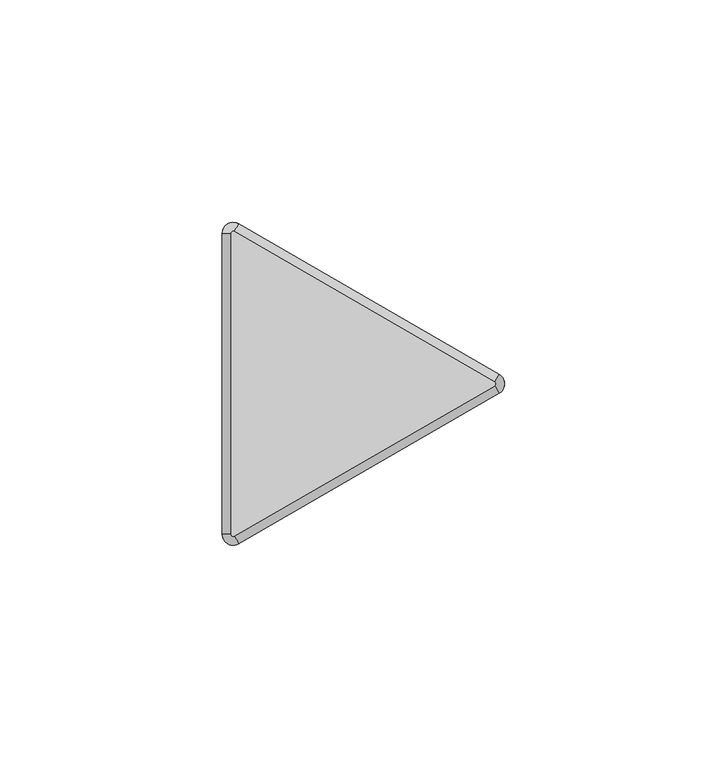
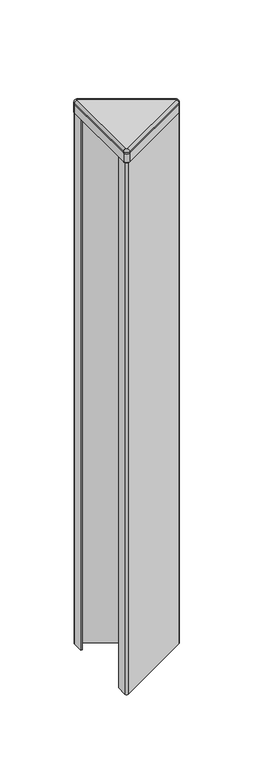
"""IFC4 building model written with IfcOpenShell, lengths in millimetres: furniture geometry, Steelcase - Answer Solution - Panel - 120deg Change-of-Height Trim - Thin : Y Corner - 18H for 72H App."""

import ifcopenshell
import ifcopenshell.guid

model = None  # the IFC model being written
_history = None  # IfcOwnerHistory: only IFC2X3 demands one
_inside = {}  # id of a spatial element -> (the spatial element, [elements in it])
_under = {}  # id of a project, library or spatial element -> (it, [spatial elements below it])
_declared = {}  # id of a project -> (the project, [libraries it declares])
_typed = {}  # id of a type object -> (the type object, [elements of that type])
_made_of = {}  # id of a material, layer set ... -> (it, [elements and type objects made of it])


def new_model(schema):
    """Start an empty IFC model of exactly this schema.

    Asked for "IFC4X3", IfcOpenShell would pick the latest addendum, in which some entities
    have other attributes; the version numbers below select the first issue.
    IFC2X3 requires an IfcOwnerHistory on every rooted entity: one is made here for all.
    """
    global model, _history
    if schema == "IFC4X3":
        model = ifcopenshell.file(schema_version=(4, 3, 0, 0))
    else:
        model = ifcopenshell.file(schema=schema)
    _inside.clear()
    _under.clear()
    _declared.clear()
    _typed.clear()
    _made_of.clear()
    _history = None
    if model.schema == "IFC2X3":
        org = make("IfcOrganization", Name="unknown")
        user = make(
            "IfcPersonAndOrganization",
            ThePerson=make("IfcPerson", FamilyName="unknown"),
            TheOrganization=org,
        )
        app = make(
            "IfcApplication",
            ApplicationDeveloper=org,
            Version="unknown",
            ApplicationFullName="unknown",
            ApplicationIdentifier="unknown",
        )
        _history = make(
            "IfcOwnerHistory",
            OwningUser=user,
            OwningApplication=app,
            ChangeAction="ADDED",
            CreationDate=0,
        )
    return model


def make(cls, **values):
    """One entity of the class cls with the attributes given. An attribute that is None is left unset."""
    return model.create_entity(
        cls, **{name: value for name, value in values.items() if value is not None}
    )


def rooted(cls, **values):
    """An entity with a GlobalId (a new one), such as an element, a storey or a relation."""
    return make(cls, GlobalId=ifcopenshell.guid.new(), OwnerHistory=_history, **values)


def si_unit(unit_type, name, prefix=None):
    """IfcSIUnit, for example si_unit("LENGTHUNIT", "METRE", prefix="MILLI")."""
    return make("IfcSIUnit", UnitType=unit_type, Prefix=prefix, Name=name)


def assignment(units):
    """IfcUnitAssignment: the units of a project."""
    return None if units is None else make("IfcUnitAssignment", Units=units)


def point(xyz):
    """IfcCartesianPoint."""
    return None if xyz is None else make("IfcCartesianPoint", Coordinates=xyz)


def direction(xyz):
    """IfcDirection."""
    return None if xyz is None else make("IfcDirection", DirectionRatios=xyz)


def frame(location, z_axis=None, x_axis=None):
    """IfcAxis2Placement3D, a coordinate frame: its origin and axes. An axis left out is left unset."""
    return make(
        "IfcAxis2Placement3D",
        Location=point(location),
        Axis=direction(z_axis),
        RefDirection=direction(x_axis),
    )


def frame_2d(location, x_axis=None):
    """IfcAxis2Placement2D, a coordinate frame in the plane: its origin and x axis."""
    return make(
        "IfcAxis2Placement2D", Location=point(location), RefDirection=direction(x_axis)
    )


def origin():
    """The frame at (0, 0, 0) with its axes left unset."""
    return frame((0.0, 0.0, 0.0))


def place(relative_to, where):
    """IfcLocalPlacement: puts the frame where relative to a parent placement (None: the world)."""
    return make(
        "IfcLocalPlacement", PlacementRelTo=relative_to, RelativePlacement=where
    )


def context(
    kind, dimensions, precision=None, world=None, true_north=None, identifier=None
):
    """IfcGeometricRepresentationContext, for example the 3D "Model" context."""
    return make(
        "IfcGeometricRepresentationContext",
        ContextIdentifier=identifier,
        ContextType=kind,
        CoordinateSpaceDimension=dimensions,
        Precision=precision,
        WorldCoordinateSystem=world,
        TrueNorth=true_north,
    )


def project(units=None, contexts=None):
    """IfcProject with its units and contexts."""
    return rooted(
        "IfcProject",
        Name="project",
        RepresentationContexts=contexts,
        UnitsInContext=assignment(units),
    )


def spatial(cls, under=None, at=None, **own):
    """A site, building, storey or space (cls), placed at a placement, below another one or the project."""
    s = rooted(cls, ObjectPlacement=at, **own)
    if under is not None:
        _under.setdefault(under.id(), (under, []))[1].append(s)
    return s


def polyline(points):
    """IfcPolyline through the points."""
    return make("IfcPolyline", Points=[point(p) for p in points])


def circle_curve(where, radius):
    """IfcCircle in the frame where."""
    return make("IfcCircle", Position=where, Radius=radius)


def ellipse_curve(where, semi_axis1, semi_axis2):
    """IfcEllipse in the frame where."""
    return make(
        "IfcEllipse", Position=where, SemiAxis1=semi_axis1, SemiAxis2=semi_axis2
    )


def trimmed(basis, trim1, trim2, sense, master):
    """IfcTrimmedCurve: the piece of a basis curve between two trims."""
    return make(
        "IfcTrimmedCurve",
        BasisCurve=basis,
        Trim1=trim1,
        Trim2=trim2,
        SenseAgreement=sense,
        MasterRepresentation=master,
    )


def segment(curve, same_sense, transition):
    """IfcCompositeCurveSegment."""
    return make(
        "IfcCompositeCurveSegment",
        Transition=transition,
        SameSense=same_sense,
        ParentCurve=curve,
    )


def composite_curve(segments, self_intersect=None):
    """IfcCompositeCurve: segments joined end to end."""
    return make("IfcCompositeCurve", Segments=segments, SelfIntersect=self_intersect)


def outline(outer, holes=None, kind="AREA"):
    """IfcArbitraryClosedProfileDef: a profile drawn as a closed curve; with holes, ...WithVoids."""
    if holes is None:
        return make("IfcArbitraryClosedProfileDef", ProfileType=kind, OuterCurve=outer)
    return make(
        "IfcArbitraryProfileDefWithVoids",
        ProfileType=kind,
        OuterCurve=outer,
        InnerCurves=holes,
    )


def extrude(swept, where, along, depth):
    """IfcExtrudedAreaSolid: the profile swept, set in the frame where, extruded along a direction by depth."""
    return make(
        "IfcExtrudedAreaSolid",
        SweptArea=swept,
        Position=where,
        ExtrudedDirection=direction(along),
        Depth=depth,
    )


def shape(context_of_items, identifier, shape_type, items):
    """IfcShapeRepresentation: the items that make up one representation, for example the "Body"."""
    return make(
        "IfcShapeRepresentation",
        ContextOfItems=context_of_items,
        RepresentationIdentifier=identifier,
        RepresentationType=shape_type,
        Items=items,
    )


def source(mapping_origin, context_of_items, identifier, shape_type, items):
    """IfcRepresentationMap: a shape defined once, which mapped items show again and again."""
    return make(
        "IfcRepresentationMap",
        MappingOrigin=mapping_origin,
        MappedRepresentation=shape(context_of_items, identifier, shape_type, items),
    )


def transform(
    local_origin,
    x_axis=None,
    y_axis=None,
    z_axis=None,
    scale=None,
    scale2=None,
    scale3=None,
    uniform=True,
):
    """IfcCartesianTransformationOperator3D, or its non-uniform kind. x_axis, y_axis, z_axis: its Axis1, 2, 3."""
    if uniform:
        return make(
            "IfcCartesianTransformationOperator3D",
            Axis1=direction(x_axis),
            Axis2=direction(y_axis),
            LocalOrigin=point(local_origin),
            Scale=scale,
            Axis3=direction(z_axis),
        )
    return make(
        "IfcCartesianTransformationOperator3DnonUniform",
        Axis1=direction(x_axis),
        Axis2=direction(y_axis),
        LocalOrigin=point(local_origin),
        Scale=scale,
        Axis3=direction(z_axis),
        Scale2=scale2,
        Scale3=scale3,
    )


def mapped(mapping_source, mapping_target):
    """IfcMappedItem: shows the shape of a source again, moved by a transform."""
    return make(
        "IfcMappedItem", MappingSource=mapping_source, MappingTarget=mapping_target
    )


def made_of(thing, what):
    """Note that an element or type object is made of a material, layer set ...; save() writes the relation."""
    if what is not None:
        _made_of.setdefault(what.id(), (what, []))[1].append(thing)
    return thing


def element(
    cls,
    number,
    at=None,
    inside=None,
    cuts=None,
    type_object=None,
    material=None,
    context=None,
    identifier="Body",
    shape_type=None,
    held_by="IfcProductDefinitionShape",
    body=None,
    shapes=None,
    **own,
):
    """One element of the class cls, such as IfcWall. Its Tag is "e" and its number.

    at: its placement. inside: the storey or other place that contains it. cuts: it is an
    opening in that element (IfcRelVoidsElement). A single representation is given by context,
    identifier, shape_type and body (its items); several are given by shapes. held_by: the class
    of the entity that holds the representations. save() writes the other relations.
    """
    e = rooted(cls, Tag="e%d" % number, ObjectPlacement=at, **own)
    if body is not None:
        shapes = [shape(context, identifier, shape_type, body)]
    if shapes is not None:
        e.Representation = make(held_by, Representations=shapes)
    if inside is not None:
        _inside.setdefault(inside.id(), (inside, []))[1].append(e)
    if cuts is not None:
        rooted(
            "IfcRelVoidsElement", RelatingBuildingElement=cuts, RelatedOpeningElement=e
        )
    if type_object is not None:
        _typed.setdefault(type_object.id(), (type_object, []))[1].append(e)
    return made_of(e, material)


def aggregate(whole, parts):
    """IfcRelAggregates: a whole, such as a stair, and the parts it consists of."""
    return rooted("IfcRelAggregates", RelatingObject=whole, RelatedObjects=parts)


def save(model, path):
    """Write the relations noted so far, then the file.

    IfcRelAggregates (storeys below a building ...), IfcRelContainedInSpatialStructure (elements
    in a storey), IfcRelDefinesByType, IfcRelAssociatesMaterial and IfcRelDeclares: one each for
    every whole, place, type object, material and project.
    """
    for whole, parts in _under.values():
        aggregate(whole, parts)
    for where, things in _inside.values():
        rooted(
            "IfcRelContainedInSpatialStructure",
            RelatedElements=things,
            RelatingStructure=where,
        )
    for kind, things in _typed.values():
        rooted("IfcRelDefinesByType", RelatedObjects=things, RelatingType=kind)
    for what, things in _made_of.values():
        rooted("IfcRelAssociatesMaterial", RelatedObjects=things, RelatingMaterial=what)
    for by, libraries in _declared.values():
        rooted("IfcRelDeclares", RelatingContext=by, RelatedDefinitions=libraries)
    model.write(path)


def plane_surface(at):
    """IfcPlane: the flat surface through the origin of the frame at, square to its z axis."""
    return make("IfcPlane", Position=at)


def cylinder_surface(at, radius):
    """IfcCylindricalSurface: all points at the distance radius from the z axis of the frame at."""
    return make("IfcCylindricalSurface", Position=at, Radius=radius)


def revolved_surface(curve, axis_point, axis_direction):
    """IfcSurfaceOfRevolution: the curve turned about the line through axis_point along axis_direction."""
    return make(
        "IfcSurfaceOfRevolution",
        SweptCurve=make("IfcArbitraryOpenProfileDef", ProfileType="CURVE", Curve=curve),
        AxisPosition=make("IfcAxis1Placement", Location=point(axis_point), Axis=direction(axis_direction)),
    )


def advanced_brep(points, edges, surfaces, faces):
    """IfcAdvancedBrep: a solid bounded by faces that lie on surfaces and meet in shared edges.

    An edge is (start, end): straight between two places in points (the first is 0);
    or (start, end, curve); or (start, end, curve, False) where it runs against its curve.
    A face is (place in surfaces, loops), or (place, loops, False) where it looks against
    its surface's normal. A loop lists edges by number (the first is 1), with a minus sign
    where the edge is run from its end to its start. The first loop is the outer one.
    """
    corners = [point(p) for p in points]
    vertices = [make("IfcVertexPoint", VertexGeometry=c) for c in corners]
    made = []
    for start, end, *more in edges:
        made.append(
            make(
                "IfcEdgeCurve",
                EdgeStart=vertices[start],
                EdgeEnd=vertices[end],
                EdgeGeometry=more[0] if more else make("IfcPolyline", Points=[corners[start], corners[end]]),
                SameSense=more[1] if len(more) > 1 else True,
            )
        )
    hull = []
    for where, loops, *sense in faces:
        bounds = []
        for j, loop in enumerate(loops):
            ring = [make("IfcOrientedEdge", EdgeElement=made[abs(k) - 1], Orientation=k > 0) for k in loop]
            bounds.append(
                make(
                    "IfcFaceOuterBound" if j == 0 else "IfcFaceBound",
                    Bound=make("IfcEdgeLoop", EdgeList=ring),
                    Orientation=True,
                )
            )
        hull.append(make("IfcAdvancedFace", Bounds=bounds, FaceSurface=surfaces[where], SameSense=sense[0] if sense else True))
    return make("IfcAdvancedBrep", Outer=make("IfcClosedShell", CfsFaces=hull))


def furniture_93340cf6(model_context):
    return source(origin(), model_context, "Body", "SolidModel", [
        advanced_brep(
        [(-10.518645, -37.3335529, 1833.2628978), (-14.2052101, -35.2051135, 1833.2628978), (-14.2052101, -35.2051135, 1832.3164663), (-10.518645, -37.3335529, 1832.3164663), (-11.46175, -35.7000471, 1835.15), (-12.319, -35.2051135, 1835.15), (-11.46175, -35.7000471, 1832.3164663), (-12.319, -35.2051135, 1832.3164663), (48.0429908, -3.5229767, 1832.3164663), (48.0429908, -3.5229767, 1833.2628978), (47.0998858, -1.8894709, 1835.15), (47.0998858, -1.8894709, 1832.3164663), (48.0429908, 0.733902, 1833.2628978), (48.0429908, 0.733902, 1832.3164663), (47.0998858, -0.8996038, 1835.15), (47.0998858, -0.8996038, 1832.3164663), (-10.518645, 34.5444782, 1832.3164663), (-14.2052101, 32.4160388, 1832.3164663), (-11.46175, 32.9109723, 1832.3164663), (-12.319, 32.4160388, 1832.3164663), (-10.518645, 34.5444782, 1833.2628978), (-11.46175, 32.9109723, 1835.15), (-14.2052101, 32.4160388, 1833.2628978), (-12.319, 32.4160388, 1835.15)],
        [
            (0, 1, circle_curve(frame((-11.7475, -35.2051135, 1833.2628978), z_axis=(0.0, 0.0, -1.0), x_axis=(-1.0, 0.0, 0.0)), 2.4577101)),
            (1, 2),
            (2, 3, circle_curve(frame((-11.7475, -35.2051135, 1832.3164663), z_axis=(0.0, 0.0, 1.0), x_axis=(-1.0, 0.0, 0.0)), 2.4577101)),
            (3, 0),
            (4, 5, circle_curve(frame((-11.7475, -35.2051135, 1835.15), z_axis=(0.0, 0.0, -1.0), x_axis=(-1.0, 0.0, 0.0)), 0.5715)),
            (5, 1, circle_curve(frame((-12.3181076, -35.2051135, 1833.2628978), z_axis=(0.0, -1.0, 0.0), x_axis=(1.0, 0.0, 0.0)), 1.8871024)),
            (0, 4, circle_curve(frame((-11.4621962, -35.6992743, 1833.2628978), z_axis=(-0.8660254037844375, -0.5000000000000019, 0.0), x_axis=(-0.5000000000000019, 0.8660254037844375, 0.0)), 1.8871024)),
            (6, 7, circle_curve(frame((-11.7475, -35.2051135, 1832.3164663), z_axis=(0.0, 0.0, -1.0), x_axis=(-1.0, 0.0, 0.0)), 0.5715)),
            (7, 5),
            (4, 6),
            (3, 8),
            (8, 9),
            (9, 0),
            (9, 10, circle_curve(frame((47.0994396, -1.8886981, 1833.2628978), z_axis=(-0.8660254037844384, -0.5000000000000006, 0.0), x_axis=(-0.5000000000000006, 0.8660254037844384, 0.0)), 1.8871024)),
            (10, 4),
            (10, 11),
            (11, 6),
            (12, 9, circle_curve(frame((46.8141358, -1.3945374, 1833.2628978), z_axis=(0.0, 0.0, -1.0), x_axis=(0.4999999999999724, -0.8660254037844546, 0.0)), 2.4577101)),
            (8, 13, circle_curve(frame((46.8141358, -1.3945374, 1832.3164663), z_axis=(0.0, 0.0, 1.0), x_axis=(0.4999999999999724, -0.8660254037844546, 0.0)), 2.4577101)),
            (13, 12),
            (14, 10, circle_curve(frame((46.8141358, -1.3945374, 1835.15), z_axis=(0.0, 0.0, -1.0), x_axis=(0.4999999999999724, -0.8660254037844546, 0.0)), 0.5715)),
            (12, 14, circle_curve(frame((47.0994396, -0.9003766, 1833.2628978), z_axis=(0.866025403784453, -0.499999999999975, 0.0), x_axis=(-0.499999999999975, -0.866025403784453, 0.0)), 1.8871024)),
            (15, 11, circle_curve(frame((46.8141358, -1.3945374, 1832.3164663), z_axis=(0.0, 0.0, -1.0), x_axis=(0.4999999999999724, -0.8660254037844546, 0.0)), 0.5715)),
            (14, 15),
            (16, 13),
            (2, 17),
            (17, 16, circle_curve(frame((-11.7475, 32.4160388, 1832.3164663), z_axis=(0.0, 0.0, -1.0), x_axis=(0.500000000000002, 0.8660254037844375, 0.0)), 2.4577101)),
            (15, 18),
            (18, 19, circle_curve(frame((-11.7475, 32.4160388, 1832.3164663), z_axis=(0.0, 0.0, 1.0), x_axis=(0.500000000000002, 0.8660254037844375, 0.0)), 0.5715)),
            (19, 7),
            (16, 20),
            (20, 12),
            (20, 21, circle_curve(frame((-11.4621962, 32.9101995, 1833.2628978), z_axis=(0.8660254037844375, -0.5000000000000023, 0.0), x_axis=(-0.5000000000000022, -0.8660254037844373, 0.0)), 1.8871024)),
            (21, 14),
            (21, 18),
            (22, 20, circle_curve(frame((-11.7475, 32.4160388, 1833.2628978), z_axis=(0.0, 0.0, -1.0), x_axis=(0.500000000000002, 0.8660254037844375, 0.0)), 2.4577101)),
            (17, 22),
            (23, 21, circle_curve(frame((-11.7475, 32.4160388, 1835.15), z_axis=(0.0, 0.0, -1.0), x_axis=(0.500000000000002, 0.8660254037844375, 0.0)), 0.5715)),
            (22, 23, circle_curve(frame((-12.3181076, 32.4160388, 1833.2628978), z_axis=(0.0, 1.0, 0.0), x_axis=(1.0, 0.0, 0.0)), 1.8871024)),
            (23, 19),
            (1, 22),
            (5, 23),
        ],
        [
            cylinder_surface(frame((-11.7475, -35.2051135, 0.0), z_axis=(0.0, 0.0, 1.0), x_axis=(-1.0, 0.0, 0.0)), 2.4577101),
            revolved_surface(trimmed(ellipse_curve(frame((-12.3181076, -35.2051135, 1833.2628978), z_axis=(0.0, 1.0, 0.0), x_axis=(1.0, 0.0, 0.0)), 1.8871024, 1.8871024), [point((-14.2052101, -35.2051135, 1833.2628978))], [point((-12.319, -35.2051135, 1835.15))], True, "CARTESIAN"), (-11.7475, -35.2051135, 0.0), (0.0, 0.0, 1.0)),
            revolved_surface(polyline([(-12.319, -35.2051135, 1835.15), (-12.319, -35.2051135, 1832.3164663)]), (-11.7475, -35.2051135, 0.0), (0.0, 0.0, 1.0)),
            plane_surface(frame((-10.518645, -37.3335529, 1832.3164663), z_axis=(0.5000000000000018, -0.8660254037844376, 0.0), x_axis=(0.8660254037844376, 0.5000000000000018, 0.0))),
            cylinder_surface(frame((-11.4621962, -35.6992743, 1833.2628978), z_axis=(-0.8660254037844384, -0.5000000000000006, 0.0), x_axis=(-0.5000000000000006, 0.8660254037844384, 0.0)), 1.8871024),
            plane_surface(frame((-11.46175, -35.7000471, 1835.15), z_axis=(-0.49999999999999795, 0.8660254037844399, 0.0), x_axis=(0.8660254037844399, 0.49999999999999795, 0.0))),
            cylinder_surface(frame((46.8141358, -1.3945374, 0.0), z_axis=(0.0, 0.0, 1.0), x_axis=(0.4999999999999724, -0.8660254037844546, 0.0)), 2.4577101),
            revolved_surface(trimmed(ellipse_curve(frame((47.0994396, -1.8886981, 1833.2628978), z_axis=(-0.8660254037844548, -0.499999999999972, 0.0), x_axis=(-0.499999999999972, 0.8660254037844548, 0.0)), 1.8871024, 1.8871024), [point((48.0429908, -3.5229767, 1833.2628978))], [point((47.0998858, -1.8894709, 1835.15))], True, "CARTESIAN"), (46.8141358, -1.3945374, 0.0), (0.0, 0.0, 1.0)),
            revolved_surface(polyline([(47.09988579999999, -1.8894709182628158, 1835.15), (47.09988579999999, -1.8894709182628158, 1832.3164663)]), (46.8141358, -1.3945374, 0.0), (0.0, 0.0, 1.0)),
            plane_surface(frame((47.0998858, -0.8996038, 1832.3164663), z_axis=(0.0, 0.0, -1.0000000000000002), x_axis=(-0.8660254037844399, 0.49999999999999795, 0.0))),
            plane_surface(frame((48.0429908, 0.733902, 1832.3164663), z_axis=(0.49999999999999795, 0.8660254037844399, 0.0), x_axis=(-0.8660254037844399, 0.49999999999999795, 0.0))),
            cylinder_surface(frame((47.0994396, -0.9003766, 1833.2628978), z_axis=(0.8660254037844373, -0.5000000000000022, 0.0), x_axis=(-0.5000000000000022, -0.8660254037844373, 0.0)), 1.8871024),
            plane_surface(frame((47.0998858, -0.8996038, 1835.15), z_axis=(-0.49999999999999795, -0.8660254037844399, 0.0), x_axis=(-0.8660254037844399, 0.49999999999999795, 0.0))),
            cylinder_surface(frame((-11.7475, 32.4160388, 0.0), z_axis=(0.0, 0.0, 1.0), x_axis=(0.500000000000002, 0.8660254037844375, 0.0)), 2.4577101),
            revolved_surface(trimmed(ellipse_curve(frame((-11.4621962, 32.9101995, 1833.2628978), z_axis=(0.866025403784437, -0.5000000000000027, 0.0), x_axis=(-0.5000000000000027, -0.866025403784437, 0.0)), 1.8871024, 1.8871024), [point((-10.518645, 34.5444782, 1833.2628978))], [point((-11.46175, 32.9109723, 1835.15))], True, "CARTESIAN"), (-11.7475, 32.4160388, 0.0), (0.0, 0.0, 1.0)),
            revolved_surface(polyline([(-11.461749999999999, 32.91097231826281, 1835.15), (-11.461749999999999, 32.91097231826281, 1832.3164663)]), (-11.7475, 32.4160388, 0.0), (0.0, 0.0, 1.0)),
            plane_surface(frame((-14.2052101, 32.4160388, 1832.3164663), z_axis=(-1.0, 0.0, 0.0), x_axis=(0.0, -1.0, 0.0))),
            cylinder_surface(frame((-12.3181076, 32.4160388, 1833.2628978), z_axis=(0.0, 1.0, 0.0), x_axis=(1.0, 0.0, 0.0)), 1.8871024),
            plane_surface(frame((-12.319, 32.4160388, 1835.15), z_axis=(1.0, 0.0, 0.0), x_axis=(0.0, -1.0, 0.0))),
        ],
        [
            (0, [[1, 2, 3, 4]]),
            (1, [[5, 6, -1, 7]]),
            (2, [[8, 9, -5, 10]]),
            (3, [[-4, 11, 12, 13]]),
            (4, [[-7, -13, 14, 15]]),
            (5, [[-10, -15, 16, 17]]),
            (6, [[18, -12, 19, 20]]),
            (7, [[21, -14, -18, 22]]),
            (8, [[23, -16, -21, 24]]),
            (9, [[25, -19, -11, -3, 26, 27], [-8, -17, -23, 28, 29, 30]]),
            (10, [[-20, -25, 31, 32]]),
            (11, [[-22, -32, 33, 34]]),
            (12, [[-24, -34, 35, -28]]),
            (13, [[36, -31, -27, 37]]),
            (14, [[38, -33, -36, 39]]),
            (15, [[-29, -35, -38, 40]]),
            (16, [[-37, -26, -2, 41]]),
            (17, [[-39, -41, -6, 42]]),
            (18, [[-40, -42, -9, -30]]),
        ],
    ),
        extrude(outline(composite_curve([segment(trimmed(circle_curve(frame_2d((47.9522001, -1.3945374)), 1.2978651), [point((48.6011327, -0.2705532))], [point((48.6011327, -2.5185215))], False, "CARTESIAN"), True, "CONTINUOUS"), segment(polyline([(48.6011327, -2.5185215), (-11.6879343, -37.3264306)]), True, "CONTINUOUS"), segment(trimmed(circle_curve(frame_2d((-12.3300896, -36.2141852)), 1.2843104), [point((-11.6879343, -37.3264306))], [point((-13.6144, -36.2141852))], False, "CARTESIAN"), True, "CONTINUOUS"), segment(polyline([(-13.6144, -36.2141852), (-13.6144, -27.3303775), (-12.7, -27.3303775), (-12.7, -36.8548888), (48.7191304, -1.3945374), (-12.7, 34.0658141), (-12.7, 24.5413027), (-13.6144, 24.5413027), (-13.6144, 33.4106259)]), True, "CONTINUOUS"), segment(trimmed(circle_curve(frame_2d((-12.3217269, 33.4106259)), 1.2926731), [point((-13.6144, 33.4106259))], [point((-11.6753904, 34.5301136))], False, "CARTESIAN"), True, "CONTINUOUS"), segment(polyline([(-11.6753904, 34.5301136), (48.6011327, -0.2705532)]), True, "CONTINUOUS")], self_intersect=False)), frame((0.0, 0.0, 1377.95), z_axis=(0.0, 0.0, 1.0), x_axis=(1.0, 0.0, 0.0)), (0.0, 0.0, 1.0), 447.04),
        extrude(outline(composite_curve([segment(trimmed(circle_curve(frame_2d((46.8261011, -1.3945374)), 0.5655173), [point((47.1088598, -0.904785))], [point((47.1088598, -1.8842897))], False, "CARTESIAN"), True, "CONTINUOUS"), segment(polyline([(47.1088598, -1.8842897), (-11.4505119, -35.6935587)]), True, "CONTINUOUS"), segment(trimmed(circle_curve(frame_2d((-11.7400079, -35.1921369)), 0.5789921), [point((-11.4505119, -35.6935587))], [point((-12.319, -35.1921369))], False, "CARTESIAN"), True, "CONTINUOUS"), segment(polyline([(-12.319, -35.1921369), (-12.319, 32.3985888)]), True, "CONTINUOUS"), segment(trimmed(circle_curve(frame_2d((-11.7374252, 32.3985888)), 0.5815748), [point((-12.319, 32.3985888))], [point((-11.4466378, 32.9022473))], False, "CARTESIAN"), True, "CONTINUOUS"), segment(polyline([(-11.4466378, 32.9022473), (47.1088598, -0.904785)]), True, "CONTINUOUS")], self_intersect=False)), frame((0.0, 0.0, 1832.3164663), z_axis=(0.0, 0.0, 1.0), x_axis=(1.0, 0.0, 0.0)), (0.0, 0.0, 1.0), 2.8335337),
        extrude(outline(composite_curve([segment(trimmed(circle_curve(frame_2d((46.8140443, -1.3945374)), 2.4577558), [point((48.0429222, 0.7339416))], [point((48.0429222, -3.5230163))], False, "CARTESIAN"), True, "CONTINUOUS"), segment(polyline([(48.0429222, -3.5230163), (-10.518058, -37.333214)]), True, "CONTINUOUS"), segment(trimmed(circle_curve(frame_2d((-11.7471087, -35.2044357)), 2.4581014), [point((-10.518058, -37.333214))], [point((-14.2052101, -35.2044357))], False, "CARTESIAN"), True, "CONTINUOUS"), segment(polyline([(-14.2052101, -35.2044357), (-14.2052101, 32.4160388)]), True, "CONTINUOUS"), segment(trimmed(circle_curve(frame_2d((-11.7475, 32.4160388)), 2.4577101), [point((-14.2052101, 32.4160388))], [point((-10.518645, 34.5444782))], False, "CARTESIAN"), True, "CONTINUOUS"), segment(polyline([(-10.518645, 34.5444782), (48.0429222, 0.7339416)]), True, "CONTINUOUS")], self_intersect=False)), frame((0.0, 0.0, 1824.99), z_axis=(0.0, 0.0, 1.0), x_axis=(1.0, 0.0, 0.0)), (0.0, 0.0, 1.0), 7.3264663),
    ])


if __name__ == "__main__":
    model = new_model("IFC4")
    model_context = context("Model", 3, world=origin())
    ifc_project = project(units=[si_unit("LENGTHUNIT", "METRE", prefix="MILLI")], contexts=[model_context])
    site = spatial("IfcSite", under=ifc_project)
    building = spatial("IfcBuilding", under=site)
    placement = place(None, origin())
    furniture_shape = furniture_93340cf6(model_context)
    element("IfcFurniture", 1, ObjectType="Steelcase - Answer Solution - Panel - 120deg Change-of-Height Trim - Thin : Y Corner - 18H for 72H App", at=placement, inside=building, context=model_context, shape_type="MappedRepresentation", body=[
        mapped(furniture_shape, transform((0.0, 0.0, 0.0), x_axis=(1.0, 0.0, 0.0), y_axis=(0.0, 1.0, 0.0), z_axis=(0.0, 0.0, 1.0))),
    ])
    save(model, "model.ifc")
